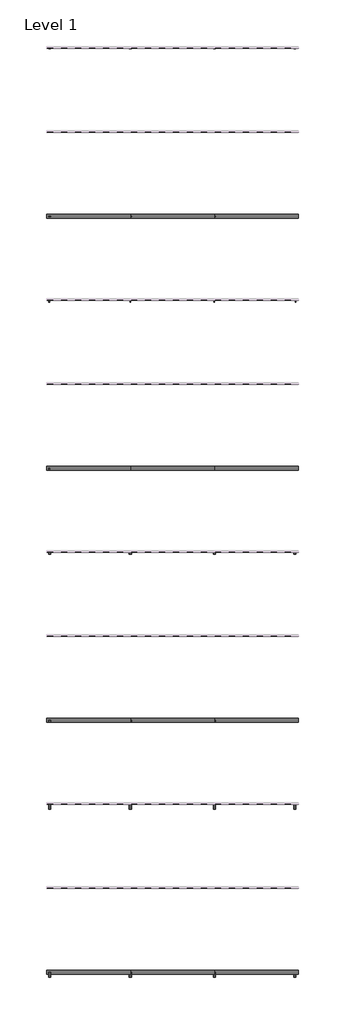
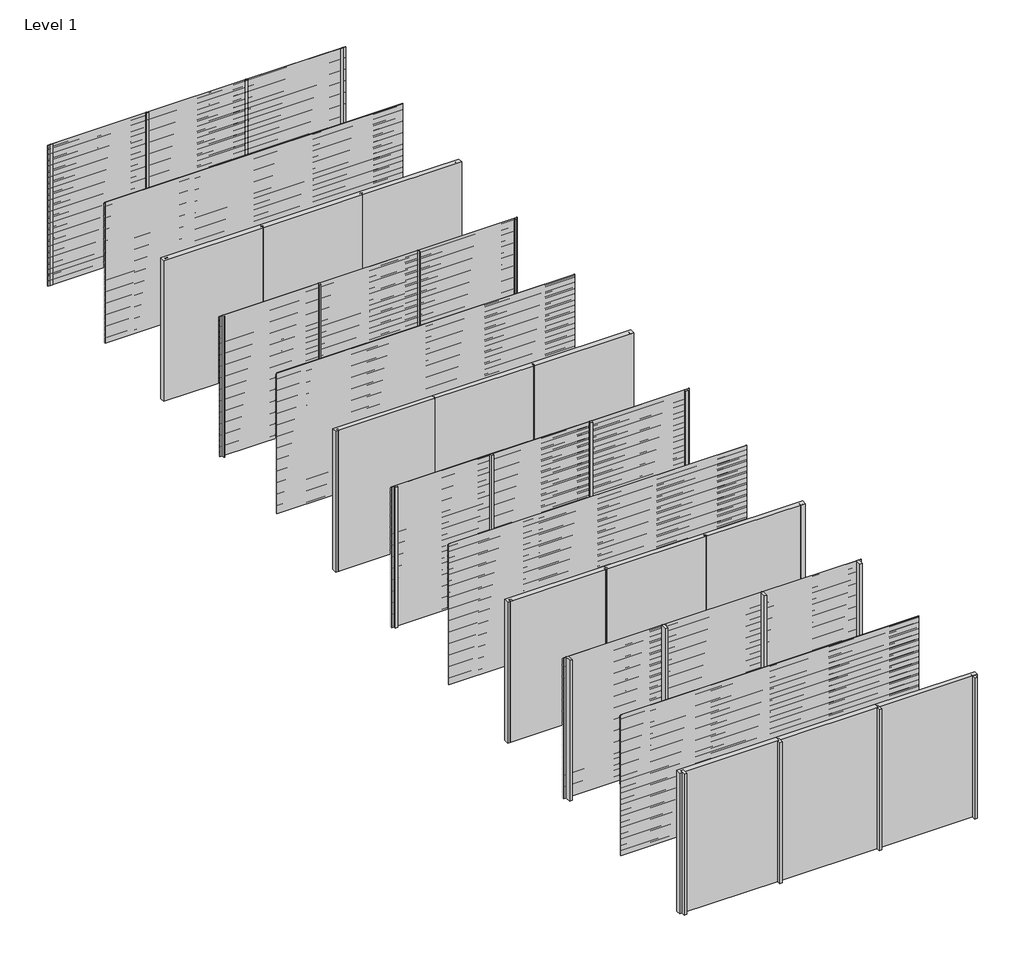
# One storey, part 1 of 17: 42 proxies, 32 members, 28 plates.
"""IFC4 building model written with IfcOpenShell, lengths in millimetres."""

from ifc_helpers import new_model, si_unit, frame, origin, origin_with_axes, place, context, project, spatial, polyline, outline, extrude, transform, mapped, element, save
from components import rectangular_mullion_bbbcbd30, rectangular_mullion_f8d4a220, rectangular_mullion_81aaf6fe, rectangular_mullion_6e08dc26, rectangular_mullion_75c52e10, rectangular_mullion_40295cf1, rectangular_mullion_7f158cb3, rectangular_mullion_66519e13, rectangular_mullion_5829b51c, rectangular_mullion_3b5b8a15, rectangular_mullion_81543344, rectangular_mullion_041a21c4, empty_system_panel_empty_24b1c33f, empty_system_panel_empty_63adb5f1

model = new_model("IFC4")

# Units and contexts
model_context = context("Model", 3, world=origin())
ifc_project = project(units=[si_unit("LENGTHUNIT", "METRE", prefix="MILLI")], contexts=[model_context])

# Site, building, storey
site = spatial("IfcSite", under=ifc_project)
building = spatial("IfcBuilding", under=site)
storey = spatial("IfcBuildingStorey", under=building, Name="Level 1", Elevation=0.0)

# Proxies
placement = place(None, origin())
element("IfcBuildingElementProxy", 1, Name="Wall Sweeps", at=placement, inside=storey, context=model_context, shape_type="SweptSolid", body=[
    extrude(outline(polyline([(-19961.0, 2951.5), (-19961.0, 2936.5), (-19979.0, 2948.6411533), (-19997.0, 2936.5), (-19997.0, 2951.5), (-19980.0, 2962.9666448), (-19980.0, 2975.0), (-19978.0, 2975.0), (-19978.0, 2962.9666448), (-19961.0, 2951.5)])), frame((0.0, 0.0, 0.0), z_axis=(1.0, 0.0, 0.0), x_axis=(0.0, 1.0, 0.0)), (0.0, 0.0, 1.0), 6000.0),
])
element("IfcBuildingElementProxy", 2, Name="Wall Sweeps", at=placement, inside=storey, context=model_context, shape_type="SweptSolid", body=[
    extrude(outline(polyline([(-19961.0, 2916.5), (-19961.0, 2901.5), (-19979.0, 2913.6411533), (-19997.0, 2901.5), (-19997.0, 2916.5), (-19980.0, 2927.9666448), (-19980.0, 2940.0), (-19978.0, 2940.0), (-19978.0, 2927.9666448), (-19961.0, 2916.5)])), frame((0.0, 0.0, 0.0), z_axis=(1.0, 0.0, 0.0), x_axis=(0.0, 1.0, 0.0)), (0.0, 0.0, 1.0), 6000.0),
])
element("IfcBuildingElementProxy", 3, Name="Wall Sweeps", at=placement, inside=storey, context=model_context, shape_type="SweptSolid", body=[
    extrude(outline(polyline([(-19961.0, 2881.5), (-19961.0, 2866.5), (-19979.0, 2878.6411533), (-19997.0, 2866.5), (-19997.0, 2881.5), (-19980.0, 2892.9666448), (-19980.0, 2905.0), (-19978.0, 2905.0), (-19978.0, 2892.9666448), (-19961.0, 2881.5)])), frame((0.0, 0.0, 0.0), z_axis=(1.0, 0.0, 0.0), x_axis=(0.0, 1.0, 0.0)), (0.0, 0.0, 1.0), 6000.0),
])
element("IfcBuildingElementProxy", 4, Name="Wall Sweeps", at=placement, inside=storey, context=model_context, shape_type="SweptSolid", body=[
    extrude(outline(polyline([(-19961.0, 2846.5), (-19961.0, 2831.5), (-19979.0, 2843.6411533), (-19997.0, 2831.5), (-19997.0, 2846.5), (-19980.0, 2857.9666448), (-19980.0, 2870.0), (-19978.0, 2870.0), (-19978.0, 2857.9666448), (-19961.0, 2846.5)])), frame((0.0, 0.0, 0.0), z_axis=(1.0, 0.0, 0.0), x_axis=(0.0, 1.0, 0.0)), (0.0, 0.0, 1.0), 6000.0),
])
element("IfcBuildingElementProxy", 5, Name="Wall Sweeps", at=placement, inside=storey, context=model_context, shape_type="SweptSolid", body=[
    extrude(outline(polyline([(-19961.0, 2811.5), (-19961.0, 2796.5), (-19979.0, 2808.6411533), (-19997.0, 2796.5), (-19997.0, 2811.5), (-19980.0, 2822.9666448), (-19980.0, 2835.0), (-19978.0, 2835.0), (-19978.0, 2822.9666448), (-19961.0, 2811.5)])), frame((0.0, 0.0, 0.0), z_axis=(1.0, 0.0, 0.0), x_axis=(0.0, 1.0, 0.0)), (0.0, 0.0, 1.0), 6000.0),
])
element("IfcBuildingElementProxy", 6, Name="Wall Sweeps", at=placement, inside=storey, context=model_context, shape_type="SweptSolid", body=[
    extrude(outline(polyline([(-19961.0, 2776.5), (-19961.0, 2761.5), (-19979.0, 2773.6411533), (-19997.0, 2761.5), (-19997.0, 2776.5), (-19980.0, 2787.9666448), (-19980.0, 2800.0), (-19978.0, 2800.0), (-19978.0, 2787.9666448), (-19961.0, 2776.5)])), frame((0.0, 0.0, 0.0), z_axis=(1.0, 0.0, 0.0), x_axis=(0.0, 1.0, 0.0)), (0.0, 0.0, 1.0), 6000.0),
])
element("IfcBuildingElementProxy", 7, Name="Wall Sweeps", at=placement, inside=storey, context=model_context, shape_type="SweptSolid", body=[
    extrude(outline(polyline([(-19961.0, 2741.5), (-19961.0, 2726.5), (-19979.0, 2738.6411533), (-19997.0, 2726.5), (-19997.0, 2741.5), (-19980.0, 2752.9666448), (-19980.0, 2765.0), (-19978.0, 2765.0), (-19978.0, 2752.9666448), (-19961.0, 2741.5)])), frame((0.0, 0.0, 0.0), z_axis=(1.0, 0.0, 0.0), x_axis=(0.0, 1.0, 0.0)), (0.0, 0.0, 1.0), 6000.0),
])
element("IfcBuildingElementProxy", 8, Name="Wall Sweeps", at=placement, inside=storey, context=model_context, shape_type="SweptSolid", body=[
    extrude(outline(polyline([(-19961.0, 2706.5), (-19961.0, 2691.5), (-19979.0, 2703.6411533), (-19997.0, 2691.5), (-19997.0, 2706.5), (-19980.0, 2717.9666448), (-19980.0, 2730.0), (-19978.0, 2730.0), (-19978.0, 2717.9666448), (-19961.0, 2706.5)])), frame((0.0, 0.0, 0.0), z_axis=(1.0, 0.0, 0.0), x_axis=(0.0, 1.0, 0.0)), (0.0, 0.0, 1.0), 6000.0),
])
element("IfcBuildingElementProxy", 9, Name="Wall Sweeps", at=placement, inside=storey, context=model_context, shape_type="SweptSolid", body=[
    extrude(outline(polyline([(-19961.0, 2671.5), (-19961.0, 2656.5), (-19979.0, 2668.6411533), (-19997.0, 2656.5), (-19997.0, 2671.5), (-19980.0, 2682.9666448), (-19980.0, 2695.0), (-19978.0, 2695.0), (-19978.0, 2682.9666448), (-19961.0, 2671.5)])), frame((0.0, 0.0, 0.0), z_axis=(1.0, 0.0, 0.0), x_axis=(0.0, 1.0, 0.0)), (0.0, 0.0, 1.0), 6000.0),
])
element("IfcBuildingElementProxy", 10, Name="Wall Sweeps", at=placement, inside=storey, context=model_context, shape_type="SweptSolid", body=[
    extrude(outline(polyline([(-19961.0, 2636.5), (-19961.0, 2621.5), (-19979.0, 2633.6411533), (-19997.0, 2621.5), (-19997.0, 2636.5), (-19980.0, 2647.9666448), (-19980.0, 2660.0), (-19978.0, 2660.0), (-19978.0, 2647.9666448), (-19961.0, 2636.5)])), frame((0.0, 0.0, 0.0), z_axis=(1.0, 0.0, 0.0), x_axis=(0.0, 1.0, 0.0)), (0.0, 0.0, 1.0), 6000.0),
])
element("IfcBuildingElementProxy", 11, Name="Wall Sweeps", at=placement, inside=storey, context=model_context, shape_type="SweptSolid", body=[
    extrude(outline(polyline([(-19961.0, 2601.5), (-19961.0, 2586.5), (-19979.0, 2598.6411533), (-19997.0, 2586.5), (-19997.0, 2601.5), (-19980.0, 2612.9666448), (-19980.0, 2625.0), (-19978.0, 2625.0), (-19978.0, 2612.9666448), (-19961.0, 2601.5)])), frame((0.0, 0.0, 0.0), z_axis=(1.0, 0.0, 0.0), x_axis=(0.0, 1.0, 0.0)), (0.0, 0.0, 1.0), 6000.0),
])
element("IfcBuildingElementProxy", 12, Name="Wall Sweeps", at=placement, inside=storey, context=model_context, shape_type="SweptSolid", body=[
    extrude(outline(polyline([(-19961.0, 2566.5), (-19961.0, 2551.5), (-19979.0, 2563.6411533), (-19997.0, 2551.5), (-19997.0, 2566.5), (-19980.0, 2577.9666448), (-19980.0, 2590.0), (-19978.0, 2590.0), (-19978.0, 2577.9666448), (-19961.0, 2566.5)])), frame((0.0, 0.0, 0.0), z_axis=(1.0, 0.0, 0.0), x_axis=(0.0, 1.0, 0.0)), (0.0, 0.0, 1.0), 6000.0),
])
element("IfcBuildingElementProxy", 13, Name="Wall Sweeps", at=placement, inside=storey, context=model_context, shape_type="SweptSolid", body=[
    extrude(outline(polyline([(-19961.0, 2531.5), (-19961.0, 2516.5), (-19979.0, 2528.6411533), (-19997.0, 2516.5), (-19997.0, 2531.5), (-19980.0, 2542.9666448), (-19980.0, 2555.0), (-19978.0, 2555.0), (-19978.0, 2542.9666448), (-19961.0, 2531.5)])), frame((0.0, 0.0, 0.0), z_axis=(1.0, 0.0, 0.0), x_axis=(0.0, 1.0, 0.0)), (0.0, 0.0, 1.0), 6000.0),
])
element("IfcBuildingElementProxy", 14, Name="Wall Sweeps", at=placement, inside=storey, context=model_context, shape_type="SweptSolid", body=[
    extrude(outline(polyline([(-19961.0, 2496.5), (-19961.0, 2481.5), (-19979.0, 2493.6411533), (-19997.0, 2481.5), (-19997.0, 2496.5), (-19980.0, 2507.9666448), (-19980.0, 2520.0), (-19978.0, 2520.0), (-19978.0, 2507.9666448), (-19961.0, 2496.5)])), frame((0.0, 0.0, 0.0), z_axis=(1.0, 0.0, 0.0), x_axis=(0.0, 1.0, 0.0)), (0.0, 0.0, 1.0), 6000.0),
])
element("IfcBuildingElementProxy", 15, Name="Wall Sweeps", at=placement, inside=storey, context=model_context, shape_type="SweptSolid", body=[
    extrude(outline(polyline([(-19961.0, 2461.5), (-19961.0, 2446.5), (-19979.0, 2458.6411533), (-19997.0, 2446.5), (-19997.0, 2461.5), (-19980.0, 2472.9666448), (-19980.0, 2485.0), (-19978.0, 2485.0), (-19978.0, 2472.9666448), (-19961.0, 2461.5)])), frame((0.0, 0.0, 0.0), z_axis=(1.0, 0.0, 0.0), x_axis=(0.0, 1.0, 0.0)), (0.0, 0.0, 1.0), 6000.0),
])
element("IfcBuildingElementProxy", 16, Name="Wall Sweeps", at=placement, inside=storey, context=model_context, shape_type="SweptSolid", body=[
    extrude(outline(polyline([(-19961.0, 2426.5), (-19961.0, 2411.5), (-19979.0, 2423.6411533), (-19997.0, 2411.5), (-19997.0, 2426.5), (-19980.0, 2437.9666448), (-19980.0, 2450.0), (-19978.0, 2450.0), (-19978.0, 2437.9666448), (-19961.0, 2426.5)])), frame((0.0, 0.0, 0.0), z_axis=(1.0, 0.0, 0.0), x_axis=(0.0, 1.0, 0.0)), (0.0, 0.0, 1.0), 6000.0),
])
element("IfcBuildingElementProxy", 17, Name="Wall Sweeps", at=placement, inside=storey, context=model_context, shape_type="SweptSolid", body=[
    extrude(outline(polyline([(-19961.0, 2391.5), (-19961.0, 2376.5), (-19979.0, 2388.6411533), (-19997.0, 2376.5), (-19997.0, 2391.5), (-19980.0, 2402.9666448), (-19980.0, 2415.0), (-19978.0, 2415.0), (-19978.0, 2402.9666448), (-19961.0, 2391.5)])), frame((0.0, 0.0, 0.0), z_axis=(1.0, 0.0, 0.0), x_axis=(0.0, 1.0, 0.0)), (0.0, 0.0, 1.0), 6000.0),
])
element("IfcBuildingElementProxy", 18, Name="Wall Sweeps", at=placement, inside=storey, context=model_context, shape_type="SweptSolid", body=[
    extrude(outline(polyline([(-19961.0, 2356.5), (-19961.0, 2341.5), (-19979.0, 2353.6411533), (-19997.0, 2341.5), (-19997.0, 2356.5), (-19980.0, 2367.9666448), (-19980.0, 2380.0), (-19978.0, 2380.0), (-19978.0, 2367.9666448), (-19961.0, 2356.5)])), frame((0.0, 0.0, 0.0), z_axis=(1.0, 0.0, 0.0), x_axis=(0.0, 1.0, 0.0)), (0.0, 0.0, 1.0), 6000.0),
])
element("IfcBuildingElementProxy", 19, Name="Wall Sweeps", at=placement, inside=storey, context=model_context, shape_type="SweptSolid", body=[
    extrude(outline(polyline([(-19961.0, 2321.5), (-19961.0, 2306.5), (-19979.0, 2318.6411533), (-19997.0, 2306.5), (-19997.0, 2321.5), (-19980.0, 2332.9666448), (-19980.0, 2345.0), (-19978.0, 2345.0), (-19978.0, 2332.9666448), (-19961.0, 2321.5)])), frame((0.0, 0.0, 0.0), z_axis=(1.0, 0.0, 0.0), x_axis=(0.0, 1.0, 0.0)), (0.0, 0.0, 1.0), 6000.0),
])
element("IfcBuildingElementProxy", 20, Name="Wall Sweeps", at=placement, inside=storey, context=model_context, shape_type="SweptSolid", body=[
    extrude(outline(polyline([(-19961.0, 2286.5), (-19961.0, 2271.5), (-19979.0, 2283.6411533), (-19997.0, 2271.5), (-19997.0, 2286.5), (-19980.0, 2297.9666448), (-19980.0, 2310.0), (-19978.0, 2310.0), (-19978.0, 2297.9666448), (-19961.0, 2286.5)])), frame((0.0, 0.0, 0.0), z_axis=(1.0, 0.0, 0.0), x_axis=(0.0, 1.0, 0.0)), (0.0, 0.0, 1.0), 6000.0),
])
element("IfcBuildingElementProxy", 21, Name="Wall Sweeps", at=placement, inside=storey, context=model_context, shape_type="SweptSolid", body=[
    extrude(outline(polyline([(-19961.0, 2251.5), (-19961.0, 2236.5), (-19979.0, 2248.6411533), (-19997.0, 2236.5), (-19997.0, 2251.5), (-19980.0, 2262.9666448), (-19980.0, 2275.0), (-19978.0, 2275.0), (-19978.0, 2262.9666448), (-19961.0, 2251.5)])), frame((0.0, 0.0, 0.0), z_axis=(1.0, 0.0, 0.0), x_axis=(0.0, 1.0, 0.0)), (0.0, 0.0, 1.0), 6000.0),
])
element("IfcBuildingElementProxy", 22, Name="Wall Sweeps", at=placement, inside=storey, context=model_context, shape_type="SweptSolid", body=[
    extrude(outline(polyline([(-19961.0, 2216.5), (-19961.0, 2201.5), (-19979.0, 2213.6411533), (-19997.0, 2201.5), (-19997.0, 2216.5), (-19980.0, 2227.9666448), (-19980.0, 2240.0), (-19978.0, 2240.0), (-19978.0, 2227.9666448), (-19961.0, 2216.5)])), frame((0.0, 0.0, 0.0), z_axis=(1.0, 0.0, 0.0), x_axis=(0.0, 1.0, 0.0)), (0.0, 0.0, 1.0), 6000.0),
])
element("IfcBuildingElementProxy", 23, Name="Wall Sweeps", at=placement, inside=storey, context=model_context, shape_type="SweptSolid", body=[
    extrude(outline(polyline([(-19961.0, 2181.5), (-19961.0, 2166.5), (-19979.0, 2178.6411533), (-19997.0, 2166.5), (-19997.0, 2181.5), (-19980.0, 2192.9666448), (-19980.0, 2205.0), (-19978.0, 2205.0), (-19978.0, 2192.9666448), (-19961.0, 2181.5)])), frame((0.0, 0.0, 0.0), z_axis=(1.0, 0.0, 0.0), x_axis=(0.0, 1.0, 0.0)), (0.0, 0.0, 1.0), 6000.0),
])
element("IfcBuildingElementProxy", 24, Name="Wall Sweeps", at=placement, inside=storey, context=model_context, shape_type="SweptSolid", body=[
    extrude(outline(polyline([(-19961.0, 2146.5), (-19961.0, 2131.5), (-19979.0, 2143.6411533), (-19997.0, 2131.5), (-19997.0, 2146.5), (-19980.0, 2157.9666448), (-19980.0, 2170.0), (-19978.0, 2170.0), (-19978.0, 2157.9666448), (-19961.0, 2146.5)])), frame((0.0, 0.0, 0.0), z_axis=(1.0, 0.0, 0.0), x_axis=(0.0, 1.0, 0.0)), (0.0, 0.0, 1.0), 6000.0),
])
element("IfcBuildingElementProxy", 25, Name="Wall Sweeps", at=placement, inside=storey, context=model_context, shape_type="SweptSolid", body=[
    extrude(outline(polyline([(-19961.0, 2111.5), (-19961.0, 2096.5), (-19979.0, 2108.6411533), (-19997.0, 2096.5), (-19997.0, 2111.5), (-19980.0, 2122.9666448), (-19980.0, 2135.0), (-19978.0, 2135.0), (-19978.0, 2122.9666448), (-19961.0, 2111.5)])), frame((0.0, 0.0, 0.0), z_axis=(1.0, 0.0, 0.0), x_axis=(0.0, 1.0, 0.0)), (0.0, 0.0, 1.0), 6000.0),
])
element("IfcBuildingElementProxy", 26, Name="Wall Sweeps", at=placement, inside=storey, context=model_context, shape_type="SweptSolid", body=[
    extrude(outline(polyline([(-19961.0, 2076.5), (-19961.0, 2061.5), (-19979.0, 2073.6411533), (-19997.0, 2061.5), (-19997.0, 2076.5), (-19980.0, 2087.9666448), (-19980.0, 2100.0), (-19978.0, 2100.0), (-19978.0, 2087.9666448), (-19961.0, 2076.5)])), frame((0.0, 0.0, 0.0), z_axis=(1.0, 0.0, 0.0), x_axis=(0.0, 1.0, 0.0)), (0.0, 0.0, 1.0), 6000.0),
])
element("IfcBuildingElementProxy", 27, Name="Wall Sweeps", at=placement, inside=storey, context=model_context, shape_type="SweptSolid", body=[
    extrude(outline(polyline([(-19961.0, 2041.5), (-19961.0, 2026.5), (-19979.0, 2038.6411533), (-19997.0, 2026.5), (-19997.0, 2041.5), (-19980.0, 2052.9666448), (-19980.0, 2065.0), (-19978.0, 2065.0), (-19978.0, 2052.9666448), (-19961.0, 2041.5)])), frame((0.0, 0.0, 0.0), z_axis=(1.0, 0.0, 0.0), x_axis=(0.0, 1.0, 0.0)), (0.0, 0.0, 1.0), 6000.0),
])
element("IfcBuildingElementProxy", 28, Name="Wall Sweeps", at=placement, inside=storey, context=model_context, shape_type="SweptSolid", body=[
    extrude(outline(polyline([(-19961.0, 2006.5), (-19961.0, 1991.5), (-19979.0, 2003.6411533), (-19997.0, 1991.5), (-19997.0, 2006.5), (-19980.0, 2017.9666448), (-19980.0, 2030.0), (-19978.0, 2030.0), (-19978.0, 2017.9666448), (-19961.0, 2006.5)])), frame((0.0, 0.0, 0.0), z_axis=(1.0, 0.0, 0.0), x_axis=(0.0, 1.0, 0.0)), (0.0, 0.0, 1.0), 6000.0),
])
element("IfcBuildingElementProxy", 29, Name="Wall Sweeps", at=placement, inside=storey, context=model_context, shape_type="SweptSolid", body=[
    extrude(outline(polyline([(-19961.0, 1971.5), (-19961.0, 1956.5), (-19979.0, 1968.6411533), (-19997.0, 1956.5), (-19997.0, 1971.5), (-19980.0, 1982.9666448), (-19980.0, 1995.0), (-19978.0, 1995.0), (-19978.0, 1982.9666448), (-19961.0, 1971.5)])), frame((0.0, 0.0, 0.0), z_axis=(1.0, 0.0, 0.0), x_axis=(0.0, 1.0, 0.0)), (0.0, 0.0, 1.0), 6000.0),
])
element("IfcBuildingElementProxy", 30, Name="Wall Sweeps", at=placement, inside=storey, context=model_context, shape_type="SweptSolid", body=[
    extrude(outline(polyline([(-19961.0, 1936.5), (-19961.0, 1921.5), (-19979.0, 1933.6411533), (-19997.0, 1921.5), (-19997.0, 1936.5), (-19980.0, 1947.9666448), (-19980.0, 1960.0), (-19978.0, 1960.0), (-19978.0, 1947.9666448), (-19961.0, 1936.5)])), frame((0.0, 0.0, 0.0), z_axis=(1.0, 0.0, 0.0), x_axis=(0.0, 1.0, 0.0)), (0.0, 0.0, 1.0), 6000.0),
])
element("IfcBuildingElementProxy", 31, Name="Wall Sweeps", at=placement, inside=storey, context=model_context, shape_type="SweptSolid", body=[
    extrude(outline(polyline([(-19961.0, 1901.5), (-19961.0, 1886.5), (-19979.0, 1898.6411533), (-19997.0, 1886.5), (-19997.0, 1901.5), (-19980.0, 1912.9666448), (-19980.0, 1925.0), (-19978.0, 1925.0), (-19978.0, 1912.9666448), (-19961.0, 1901.5)])), frame((0.0, 0.0, 0.0), z_axis=(1.0, 0.0, 0.0), x_axis=(0.0, 1.0, 0.0)), (0.0, 0.0, 1.0), 6000.0),
])
element("IfcBuildingElementProxy", 32, Name="Wall Sweeps", at=placement, inside=storey, context=model_context, shape_type="SweptSolid", body=[
    extrude(outline(polyline([(-19961.0, 1866.5), (-19961.0, 1851.5), (-19979.0, 1863.6411533), (-19997.0, 1851.5), (-19997.0, 1866.5), (-19980.0, 1877.9666448), (-19980.0, 1890.0), (-19978.0, 1890.0), (-19978.0, 1877.9666448), (-19961.0, 1866.5)])), frame((0.0, 0.0, 0.0), z_axis=(1.0, 0.0, 0.0), x_axis=(0.0, 1.0, 0.0)), (0.0, 0.0, 1.0), 6000.0),
])
element("IfcBuildingElementProxy", 33, Name="Wall Sweeps", at=placement, inside=storey, context=model_context, shape_type="SweptSolid", body=[
    extrude(outline(polyline([(-19961.0, 1831.5), (-19961.0, 1816.5), (-19979.0, 1828.6411533), (-19997.0, 1816.5), (-19997.0, 1831.5), (-19980.0, 1842.9666448), (-19980.0, 1855.0), (-19978.0, 1855.0), (-19978.0, 1842.9666448), (-19961.0, 1831.5)])), frame((0.0, 0.0, 0.0), z_axis=(1.0, 0.0, 0.0), x_axis=(0.0, 1.0, 0.0)), (0.0, 0.0, 1.0), 6000.0),
])
element("IfcBuildingElementProxy", 34, Name="Wall Sweeps", at=placement, inside=storey, context=model_context, shape_type="SweptSolid", body=[
    extrude(outline(polyline([(-19961.0, 1796.5), (-19961.0, 1781.5), (-19979.0, 1793.6411533), (-19997.0, 1781.5), (-19997.0, 1796.5), (-19980.0, 1807.9666448), (-19980.0, 1820.0), (-19978.0, 1820.0), (-19978.0, 1807.9666448), (-19961.0, 1796.5)])), frame((0.0, 0.0, 0.0), z_axis=(1.0, 0.0, 0.0), x_axis=(0.0, 1.0, 0.0)), (0.0, 0.0, 1.0), 6000.0),
])
element("IfcBuildingElementProxy", 35, Name="Wall Sweeps", at=placement, inside=storey, context=model_context, shape_type="SweptSolid", body=[
    extrude(outline(polyline([(-19961.0, 1761.5), (-19961.0, 1746.5), (-19979.0, 1758.6411533), (-19997.0, 1746.5), (-19997.0, 1761.5), (-19980.0, 1772.9666448), (-19980.0, 1785.0), (-19978.0, 1785.0), (-19978.0, 1772.9666448), (-19961.0, 1761.5)])), frame((0.0, 0.0, 0.0), z_axis=(1.0, 0.0, 0.0), x_axis=(0.0, 1.0, 0.0)), (0.0, 0.0, 1.0), 6000.0),
])
element("IfcBuildingElementProxy", 36, Name="Wall Sweeps", at=placement, inside=storey, context=model_context, shape_type="SweptSolid", body=[
    extrude(outline(polyline([(-19961.0, 1726.5), (-19961.0, 1711.5), (-19979.0, 1723.6411533), (-19997.0, 1711.5), (-19997.0, 1726.5), (-19980.0, 1737.9666448), (-19980.0, 1750.0), (-19978.0, 1750.0), (-19978.0, 1737.9666448), (-19961.0, 1726.5)])), frame((0.0, 0.0, 0.0), z_axis=(1.0, 0.0, 0.0), x_axis=(0.0, 1.0, 0.0)), (0.0, 0.0, 1.0), 6000.0),
])
element("IfcBuildingElementProxy", 37, Name="Wall Sweeps", at=placement, inside=storey, context=model_context, shape_type="SweptSolid", body=[
    extrude(outline(polyline([(-19961.0, 1691.5), (-19961.0, 1676.5), (-19979.0, 1688.6411533), (-19997.0, 1676.5), (-19997.0, 1691.5), (-19980.0, 1702.9666448), (-19980.0, 1715.0), (-19978.0, 1715.0), (-19978.0, 1702.9666448), (-19961.0, 1691.5)])), frame((0.0, 0.0, 0.0), z_axis=(1.0, 0.0, 0.0), x_axis=(0.0, 1.0, 0.0)), (0.0, 0.0, 1.0), 6000.0),
])
element("IfcBuildingElementProxy", 38, Name="Wall Sweeps", at=placement, inside=storey, context=model_context, shape_type="SweptSolid", body=[
    extrude(outline(polyline([(-19961.0, 1656.5), (-19961.0, 1641.5), (-19979.0, 1653.6411533), (-19997.0, 1641.5), (-19997.0, 1656.5), (-19980.0, 1667.9666448), (-19980.0, 1680.0), (-19978.0, 1680.0), (-19978.0, 1667.9666448), (-19961.0, 1656.5)])), frame((0.0, 0.0, 0.0), z_axis=(1.0, 0.0, 0.0), x_axis=(0.0, 1.0, 0.0)), (0.0, 0.0, 1.0), 6000.0),
])
element("IfcBuildingElementProxy", 39, Name="Wall Sweeps", at=placement, inside=storey, context=model_context, shape_type="SweptSolid", body=[
    extrude(outline(polyline([(-19961.0, 1621.5), (-19961.0, 1606.5), (-19979.0, 1618.6411533), (-19997.0, 1606.5), (-19997.0, 1621.5), (-19980.0, 1632.9666448), (-19980.0, 1645.0), (-19978.0, 1645.0), (-19978.0, 1632.9666448), (-19961.0, 1621.5)])), frame((0.0, 0.0, 0.0), z_axis=(1.0, 0.0, 0.0), x_axis=(0.0, 1.0, 0.0)), (0.0, 0.0, 1.0), 6000.0),
])
element("IfcBuildingElementProxy", 40, Name="Wall Sweeps", at=placement, inside=storey, context=model_context, shape_type="SweptSolid", body=[
    extrude(outline(polyline([(-19961.0, 1586.5), (-19961.0, 1571.5), (-19979.0, 1583.6411533), (-19997.0, 1571.5), (-19997.0, 1586.5), (-19980.0, 1597.9666448), (-19980.0, 1610.0), (-19978.0, 1610.0), (-19978.0, 1597.9666448), (-19961.0, 1586.5)])), frame((0.0, 0.0, 0.0), z_axis=(1.0, 0.0, 0.0), x_axis=(0.0, 1.0, 0.0)), (0.0, 0.0, 1.0), 6000.0),
])
element("IfcBuildingElementProxy", 41, Name="Wall Sweeps", at=placement, inside=storey, context=model_context, shape_type="SweptSolid", body=[
    extrude(outline(polyline([(-19961.0, 1551.5), (-19961.0, 1536.5), (-19979.0, 1548.6411533), (-19997.0, 1536.5), (-19997.0, 1551.5), (-19980.0, 1562.9666448), (-19980.0, 1575.0), (-19978.0, 1575.0), (-19978.0, 1562.9666448), (-19961.0, 1551.5)])), frame((0.0, 0.0, 0.0), z_axis=(1.0, 0.0, 0.0), x_axis=(0.0, 1.0, 0.0)), (0.0, 0.0, 1.0), 6000.0),
])
element("IfcBuildingElementProxy", 42, Name="Wall Sweeps", at=placement, inside=storey, context=model_context, shape_type="SweptSolid", body=[
    extrude(outline(polyline([(-19961.0, 1516.5), (-19961.0, 1501.5), (-19979.0, 1513.6411533), (-19997.0, 1501.5), (-19997.0, 1516.5), (-19980.0, 1527.9666448), (-19980.0, 1540.0), (-19978.0, 1540.0), (-19978.0, 1527.9666448), (-19961.0, 1516.5)])), frame((0.0, 0.0, 0.0), z_axis=(1.0, 0.0, 0.0), x_axis=(0.0, 1.0, 0.0)), (0.0, 0.0, 1.0), 6000.0),
])

# Members
rectangular_mullion_shape = rectangular_mullion_bbbcbd30(model_context)
element("IfcMember", 43, ObjectType="Rectangular Mullion : RSen_21_CWM_support profile - 50x12 - left_gen_duco projects", at=placement, inside=storey, context=model_context, shape_type="MappedRepresentation", body=[
    mapped(rectangular_mullion_shape, transform((0.0, 0.0, 0.0), x_axis=(-1.0, 0.0, 0.0), y_axis=(0.0, 1.0, 0.0), z_axis=(0.0, 0.0, -1.0))),
])
element("IfcMember", 44, ObjectType="Rectangular Mullion : RSen_21_CWM_support profile - 50x12 - left_gen_duco projects", at=placement, inside=storey, context=model_context, shape_type="MappedRepresentation", body=[
    mapped(rectangular_mullion_shape, transform((0.0, -4000.0, 0.0), x_axis=(-1.0, 0.0, 0.0), y_axis=(0.0, 1.0, 0.0), z_axis=(0.0, 0.0, -1.0))),
])
rectangular_mullion_2_shape = rectangular_mullion_f8d4a220(model_context)
element("IfcMember", 45, ObjectType="Rectangular Mullion : RSen_21_CWM_support profile - 50x12 - right_gen_duco projects", at=placement, inside=storey, context=model_context, shape_type="MappedRepresentation", body=[
    mapped(rectangular_mullion_2_shape, transform((6000.0, 0.0, 3000.0), x_axis=(1.0, 0.0, 0.0), y_axis=(0.0, 1.0, 0.0), z_axis=(0.0, 0.0, 1.0))),
])
element("IfcMember", 46, ObjectType="Rectangular Mullion : RSen_21_CWM_support profile - 50x12 - right_gen_duco projects", at=placement, inside=storey, context=model_context, shape_type="MappedRepresentation", body=[
    mapped(rectangular_mullion_2_shape, transform((6000.0, -4000.0, 3000.0), x_axis=(1.0, 0.0, 0.0), y_axis=(0.0, 1.0, 0.0), z_axis=(0.0, 0.0, 1.0))),
])
rectangular_mullion_3_shape = rectangular_mullion_81aaf6fe(model_context)
element("IfcMember", 47, ObjectType="Rectangular Mullion : RSen_21_CWM_support profile - 21x50 Multi - left_gen_duco projects", at=placement, inside=storey, context=model_context, shape_type="MappedRepresentation", body=[
    mapped(rectangular_mullion_3_shape, transform((0.0, -6000.0, 0.0), x_axis=(-1.0, 0.0, 0.0), y_axis=(0.0, 1.0, 0.0), z_axis=(0.0, 0.0, -1.0))),
])
element("IfcMember", 48, ObjectType="Rectangular Mullion : RSen_21_CWM_support profile - 21x50 Multi - left_gen_duco projects", at=placement, inside=storey, context=model_context, shape_type="MappedRepresentation", body=[
    mapped(rectangular_mullion_3_shape, transform((0.0, -10000.0, 0.0), x_axis=(-1.0, 0.0, 0.0), y_axis=(0.0, 1.0, 0.0), z_axis=(0.0, 0.0, -1.0))),
])
rectangular_mullion_4_shape = rectangular_mullion_6e08dc26(model_context)
element("IfcMember", 49, ObjectType="Rectangular Mullion : RSen_21_CWM_support profile - 21x50 Multi - right_gen_duco projects", at=placement, inside=storey, context=model_context, shape_type="MappedRepresentation", body=[
    mapped(rectangular_mullion_4_shape, transform((6000.0, -6000.0, 3000.0), x_axis=(1.0, 0.0, 0.0), y_axis=(0.0, 1.0, 0.0), z_axis=(0.0, 0.0, 1.0))),
])
element("IfcMember", 50, ObjectType="Rectangular Mullion : RSen_21_CWM_support profile - 21x50 Multi - right_gen_duco projects", at=placement, inside=storey, context=model_context, shape_type="MappedRepresentation", body=[
    mapped(rectangular_mullion_4_shape, transform((6000.0, -10000.0, 3000.0), x_axis=(1.0, 0.0, 0.0), y_axis=(0.0, 1.0, 0.0), z_axis=(0.0, 0.0, 1.0))),
])
rectangular_mullion_5_shape = rectangular_mullion_75c52e10(model_context)
element("IfcMember", 51, ObjectType="Rectangular Mullion : RSen_21_CWM_support profile - 50x50 - left_gen_duco projects", at=placement, inside=storey, context=model_context, shape_type="MappedRepresentation", body=[
    mapped(rectangular_mullion_5_shape, transform((0.0, -12000.0, 0.0), x_axis=(-1.0, 0.0, 0.0), y_axis=(0.0, 1.0, 0.0), z_axis=(0.0, 0.0, -1.0))),
])
element("IfcMember", 52, ObjectType="Rectangular Mullion : RSen_21_CWM_support profile - 50x50 - left_gen_duco projects", at=placement, inside=storey, context=model_context, shape_type="MappedRepresentation", body=[
    mapped(rectangular_mullion_5_shape, transform((0.0, -16000.0, 0.0), x_axis=(-1.0, 0.0, 0.0), y_axis=(0.0, 1.0, 0.0), z_axis=(0.0, 0.0, -1.0))),
])
rectangular_mullion_6_shape = rectangular_mullion_40295cf1(model_context)
element("IfcMember", 53, ObjectType="Rectangular Mullion : RSen_21_CWM_support profile - 50x50 - right_gen_duco projects", at=placement, inside=storey, context=model_context, shape_type="MappedRepresentation", body=[
    mapped(rectangular_mullion_6_shape, transform((6000.0, -12000.0, 3000.0), x_axis=(1.0, 0.0, 0.0), y_axis=(0.0, 1.0, 0.0), z_axis=(0.0, 0.0, 1.0))),
])
element("IfcMember", 54, ObjectType="Rectangular Mullion : RSen_21_CWM_support profile - 50x50 - right_gen_duco projects", at=placement, inside=storey, context=model_context, shape_type="MappedRepresentation", body=[
    mapped(rectangular_mullion_6_shape, transform((6000.0, -16000.0, 3000.0), x_axis=(1.0, 0.0, 0.0), y_axis=(0.0, 1.0, 0.0), z_axis=(0.0, 0.0, 1.0))),
])
rectangular_mullion_7_shape = rectangular_mullion_7f158cb3(model_context)
element("IfcMember", 55, ObjectType="Rectangular Mullion : RSen_21_CWM_support profile - 50x12_gen_duco projects", at=placement, inside=storey, context=model_context, shape_type="MappedRepresentation", body=[
    mapped(rectangular_mullion_7_shape, transform((4000.0, 0.0, 0.0), x_axis=(-1.0, 0.0, 0.0), y_axis=(0.0, 1.0, 0.0), z_axis=(0.0, 0.0, -1.0))),
])
element("IfcMember", 56, ObjectType="Rectangular Mullion : RSen_21_CWM_support profile - 50x12_gen_duco projects", at=placement, inside=storey, context=model_context, shape_type="MappedRepresentation", body=[
    mapped(rectangular_mullion_7_shape, transform((2000.0, 0.0, 0.0), x_axis=(-1.0, 0.0, 0.0), y_axis=(0.0, 1.0, 0.0), z_axis=(0.0, 0.0, -1.0))),
])
element("IfcMember", 57, ObjectType="Rectangular Mullion : RSen_21_CWM_support profile - 50x12_gen_duco projects", at=placement, inside=storey, context=model_context, shape_type="MappedRepresentation", body=[
    mapped(rectangular_mullion_7_shape, transform((4000.0, -4000.0, 0.0), x_axis=(-1.0, 0.0, 0.0), y_axis=(0.0, 1.0, 0.0), z_axis=(0.0, 0.0, -1.0))),
])
element("IfcMember", 58, ObjectType="Rectangular Mullion : RSen_21_CWM_support profile - 50x12_gen_duco projects", at=placement, inside=storey, context=model_context, shape_type="MappedRepresentation", body=[
    mapped(rectangular_mullion_7_shape, transform((2000.0, -4000.0, 0.0), x_axis=(-1.0, 0.0, 0.0), y_axis=(0.0, 1.0, 0.0), z_axis=(0.0, 0.0, -1.0))),
])
rectangular_mullion_8_shape = rectangular_mullion_66519e13(model_context)
element("IfcMember", 59, ObjectType="Rectangular Mullion : RSen_21_CWM_support profile - 21x50 Multi_gen_duco projects", at=placement, inside=storey, context=model_context, shape_type="MappedRepresentation", body=[
    mapped(rectangular_mullion_8_shape, transform((4000.0, -6000.0, 0.0), x_axis=(-1.0, 0.0, 0.0), y_axis=(0.0, 1.0, 0.0), z_axis=(0.0, 0.0, -1.0))),
])
element("IfcMember", 60, ObjectType="Rectangular Mullion : RSen_21_CWM_support profile - 21x50 Multi_gen_duco projects", at=placement, inside=storey, context=model_context, shape_type="MappedRepresentation", body=[
    mapped(rectangular_mullion_8_shape, transform((2000.0, -6000.0, 0.0), x_axis=(-1.0, 0.0, 0.0), y_axis=(0.0, 1.0, 0.0), z_axis=(0.0, 0.0, -1.0))),
])
element("IfcMember", 61, ObjectType="Rectangular Mullion : RSen_21_CWM_support profile - 21x50 Multi_gen_duco projects", at=placement, inside=storey, context=model_context, shape_type="MappedRepresentation", body=[
    mapped(rectangular_mullion_8_shape, transform((4000.0, -10000.0, 0.0), x_axis=(-1.0, 0.0, 0.0), y_axis=(0.0, 1.0, 0.0), z_axis=(0.0, 0.0, -1.0))),
])
element("IfcMember", 62, ObjectType="Rectangular Mullion : RSen_21_CWM_support profile - 21x50 Multi_gen_duco projects", at=placement, inside=storey, context=model_context, shape_type="MappedRepresentation", body=[
    mapped(rectangular_mullion_8_shape, transform((2000.0, -10000.0, 0.0), x_axis=(-1.0, 0.0, 0.0), y_axis=(0.0, 1.0, 0.0), z_axis=(0.0, 0.0, -1.0))),
])
rectangular_mullion_9_shape = rectangular_mullion_5829b51c(model_context)
element("IfcMember", 63, ObjectType="Rectangular Mullion : RSen_21_CWM_support profile - 50x50_gen_duco projects", at=placement, inside=storey, context=model_context, shape_type="MappedRepresentation", body=[
    mapped(rectangular_mullion_9_shape, transform((4000.0, -12000.0, 0.0), x_axis=(-1.0, 0.0, 0.0), y_axis=(0.0, 1.0, 0.0), z_axis=(0.0, 0.0, -1.0))),
])
element("IfcMember", 64, ObjectType="Rectangular Mullion : RSen_21_CWM_support profile - 50x50_gen_duco projects", at=placement, inside=storey, context=model_context, shape_type="MappedRepresentation", body=[
    mapped(rectangular_mullion_9_shape, transform((2000.0, -12000.0, 0.0), x_axis=(-1.0, 0.0, 0.0), y_axis=(0.0, 1.0, 0.0), z_axis=(0.0, 0.0, -1.0))),
])
element("IfcMember", 65, ObjectType="Rectangular Mullion : RSen_21_CWM_support profile - 50x50_gen_duco projects", at=placement, inside=storey, context=model_context, shape_type="MappedRepresentation", body=[
    mapped(rectangular_mullion_9_shape, transform((4000.0, -16000.0, 0.0), x_axis=(-1.0, 0.0, 0.0), y_axis=(0.0, 1.0, 0.0), z_axis=(0.0, 0.0, -1.0))),
])
element("IfcMember", 66, ObjectType="Rectangular Mullion : RSen_21_CWM_support profile - 50x50_gen_duco projects", at=placement, inside=storey, context=model_context, shape_type="MappedRepresentation", body=[
    mapped(rectangular_mullion_9_shape, transform((2000.0, -16000.0, 0.0), x_axis=(-1.0, 0.0, 0.0), y_axis=(0.0, 1.0, 0.0), z_axis=(0.0, 0.0, -1.0))),
])
rectangular_mullion_10_shape = rectangular_mullion_3b5b8a15(model_context)
element("IfcMember", 67, ObjectType="Rectangular Mullion : RSen_21_CWM_support profile - 50x125_gen_duco projects", at=placement, inside=storey, context=model_context, shape_type="MappedRepresentation", body=[
    mapped(rectangular_mullion_10_shape, transform((2000.0000001, -18000.0, 0.0), x_axis=(1.0, 0.0, 0.0), y_axis=(0.0, -1.0, 0.0), z_axis=(0.0, 0.0, -1.0))),
])
element("IfcMember", 68, ObjectType="Rectangular Mullion : RSen_21_CWM_support profile - 50x125_gen_duco projects", at=placement, inside=storey, context=model_context, shape_type="MappedRepresentation", body=[
    mapped(rectangular_mullion_10_shape, transform((3999.9999999, -18000.0, 0.0), x_axis=(1.0, 0.0, 0.0), y_axis=(0.0, -1.0, 0.0), z_axis=(0.0, 0.0, -1.0))),
])
element("IfcMember", 69, ObjectType="Rectangular Mullion : RSen_21_CWM_support profile - 50x125_gen_duco projects", at=placement, inside=storey, context=model_context, shape_type="MappedRepresentation", body=[
    mapped(rectangular_mullion_10_shape, transform((2000.0000001, -22000.0, 0.0), x_axis=(1.0, 0.0, 0.0), y_axis=(0.0, -1.0, 0.0), z_axis=(0.0, 0.0, -1.0))),
])
element("IfcMember", 70, ObjectType="Rectangular Mullion : RSen_21_CWM_support profile - 50x125_gen_duco projects", at=placement, inside=storey, context=model_context, shape_type="MappedRepresentation", body=[
    mapped(rectangular_mullion_10_shape, transform((3999.9999999, -22000.0, 0.0), x_axis=(1.0, 0.0, 0.0), y_axis=(0.0, -1.0, 0.0), z_axis=(0.0, 0.0, -1.0))),
])
rectangular_mullion_11_shape = rectangular_mullion_81543344(model_context)
element("IfcMember", 71, ObjectType="Rectangular Mullion : RSen_21_CWM_support profile - 50x125 - left_gen_duco projects", at=placement, inside=storey, context=model_context, shape_type="MappedRepresentation", body=[
    mapped(rectangular_mullion_11_shape, transform((6000.0, -18000.0, 0.0), x_axis=(1.0, 0.0, 0.0), y_axis=(0.0, -1.0, 0.0), z_axis=(0.0, 0.0, -1.0))),
])
element("IfcMember", 72, ObjectType="Rectangular Mullion : RSen_21_CWM_support profile - 50x125 - left_gen_duco projects", at=placement, inside=storey, context=model_context, shape_type="MappedRepresentation", body=[
    mapped(rectangular_mullion_11_shape, transform((6000.0, -22000.0, 0.0), x_axis=(1.0, 0.0, 0.0), y_axis=(0.0, -1.0, 0.0), z_axis=(0.0, 0.0, -1.0))),
])
rectangular_mullion_12_shape = rectangular_mullion_041a21c4(model_context)
element("IfcMember", 73, ObjectType="Rectangular Mullion : RSen_21_CWM_support profile - 50x125 - right_gen_duco projects", at=placement, inside=storey, context=model_context, shape_type="MappedRepresentation", body=[
    mapped(rectangular_mullion_12_shape, transform((0.0, -18000.0, 3000.0), x_axis=(-1.0, 0.0, 0.0), y_axis=(0.0, -1.0, 0.0), z_axis=(0.0, 0.0, 1.0))),
])
element("IfcMember", 74, ObjectType="Rectangular Mullion : RSen_21_CWM_support profile - 50x125 - right_gen_duco projects", at=placement, inside=storey, context=model_context, shape_type="MappedRepresentation", body=[
    mapped(rectangular_mullion_12_shape, transform((0.0, -22000.0, 3000.0), x_axis=(-1.0, 0.0, 0.0), y_axis=(0.0, -1.0, 0.0), z_axis=(0.0, 0.0, 1.0))),
])

# Plates
element("IfcPlate", 75, ObjectType="RSen_21_WA_louvre blade classic W 35V_gen_duco projects", at=placement, inside=storey, context=model_context, shape_type="SweptSolid", body=[
    extrude(outline(polyline([(0.0, 1.0), (2000.0, 1.0), (2000.0, -1.0), (0.0, -1.0), (0.0, 1.0)])), origin_with_axes(), (0.0, 0.0, 1.0), 3000.0),
])
element("IfcPlate", 76, ObjectType="RSen_21_WA_louvre blade classic W 35V_gen_duco projects", at=placement, inside=storey, context=model_context, shape_type="SweptSolid", body=[
    extrude(outline(polyline([(2000.0, 1.0), (4000.0, 1.0), (4000.0, -1.0), (2000.0, -1.0), (2000.0, 1.0)])), origin_with_axes(), (0.0, 0.0, 1.0), 3000.0),
])
element("IfcPlate", 77, ObjectType="RSen_21_WA_louvre blade classic W 35V_gen_duco projects", at=placement, inside=storey, context=model_context, shape_type="SweptSolid", body=[
    extrude(outline(polyline([(4000.0, 1.0), (6000.0, 1.0), (6000.0, -1.0), (4000.0, -1.0), (4000.0, 1.0)])), origin_with_axes(), (0.0, 0.0, 1.0), 3000.0),
])
element("IfcPlate", 78, ObjectType="RSen_21_WA_louvre blade classic W 35V_gen_duco projects", at=placement, inside=storey, context=model_context, shape_type="SweptSolid", body=[
    extrude(outline(polyline([(0.0, -1999.0), (6000.0, -1999.0), (6000.0, -2001.0), (0.0, -2001.0), (0.0, -1999.0)])), origin_with_axes(), (0.0, 0.0, 1.0), 3000.0),
])
element("IfcPlate", 79, ObjectType="RSen_21_WA_louvre blade classic W 35V_gen_duco projects", at=placement, inside=storey, context=model_context, shape_type="SweptSolid", body=[
    extrude(outline(polyline([(0.0, -5999.0), (2000.0, -5999.0), (2000.0, -6001.0), (0.0, -6001.0), (0.0, -5999.0)])), origin_with_axes(), (0.0, 0.0, 1.0), 3000.0),
])
element("IfcPlate", 80, ObjectType="RSen_21_WA_louvre blade classic W 35V_gen_duco projects", at=placement, inside=storey, context=model_context, shape_type="SweptSolid", body=[
    extrude(outline(polyline([(2000.0, -5999.0), (4000.0, -5999.0), (4000.0, -6001.0), (2000.0, -6001.0), (2000.0, -5999.0)])), origin_with_axes(), (0.0, 0.0, 1.0), 3000.0),
])
element("IfcPlate", 81, ObjectType="RSen_21_WA_louvre blade classic W 35V_gen_duco projects", at=placement, inside=storey, context=model_context, shape_type="SweptSolid", body=[
    extrude(outline(polyline([(4000.0, -5999.0), (6000.0, -5999.0), (6000.0, -6001.0), (4000.0, -6001.0), (4000.0, -5999.0)])), origin_with_axes(), (0.0, 0.0, 1.0), 3000.0),
])
element("IfcPlate", 82, ObjectType="RSen_21_WA_louvre blade classic W 35V_gen_duco projects", at=placement, inside=storey, context=model_context, shape_type="SweptSolid", body=[
    extrude(outline(polyline([(0.0, -7999.0), (6000.0, -7999.0), (6000.0, -8001.0), (0.0, -8001.0), (0.0, -7999.0)])), origin_with_axes(), (0.0, 0.0, 1.0), 3000.0),
])
element("IfcPlate", 83, ObjectType="RSen_21_WA_louvre blade classic W 35V_gen_duco projects", at=placement, inside=storey, context=model_context, shape_type="SweptSolid", body=[
    extrude(outline(polyline([(0.0, -11999.0), (2000.0, -11999.0), (2000.0, -12001.0), (0.0, -12001.0), (0.0, -11999.0)])), origin_with_axes(), (0.0, 0.0, 1.0), 3000.0),
])
element("IfcPlate", 84, ObjectType="RSen_21_WA_louvre blade classic W 35V_gen_duco projects", at=placement, inside=storey, context=model_context, shape_type="SweptSolid", body=[
    extrude(outline(polyline([(2000.0, -11999.0), (4000.0, -11999.0), (4000.0, -12001.0), (2000.0, -12001.0), (2000.0, -11999.0)])), origin_with_axes(), (0.0, 0.0, 1.0), 3000.0),
])
element("IfcPlate", 85, ObjectType="RSen_21_WA_louvre blade classic W 35V_gen_duco projects", at=placement, inside=storey, context=model_context, shape_type="SweptSolid", body=[
    extrude(outline(polyline([(4000.0, -11999.0), (6000.0, -11999.0), (6000.0, -12001.0), (4000.0, -12001.0), (4000.0, -11999.0)])), origin_with_axes(), (0.0, 0.0, 1.0), 3000.0),
])
element("IfcPlate", 86, ObjectType="RSen_21_WA_louvre blade classic W 35V_gen_duco projects", at=placement, inside=storey, context=model_context, shape_type="SweptSolid", body=[
    extrude(outline(polyline([(0.0, -13999.0), (6000.0, -13999.0), (6000.0, -14001.0), (0.0, -14001.0), (0.0, -13999.0)])), origin_with_axes(), (0.0, 0.0, 1.0), 3000.0),
])
element("IfcPlate", 87, ObjectType="RSen_21_WA_louvre blade classic W 35V_gen_duco projects", at=placement, inside=storey, context=model_context, shape_type="SweptSolid", body=[
    extrude(outline(polyline([(6000.0, -18001.0), (3999.9999999, -18001.0), (3999.9999999, -17999.0), (6000.0, -17999.0), (6000.0, -18001.0)])), origin_with_axes(), (0.0, 0.0, 1.0), 3000.0),
])
element("IfcPlate", 88, ObjectType="RSen_21_WA_louvre blade classic W 35V_gen_duco projects", at=placement, inside=storey, context=model_context, shape_type="SweptSolid", body=[
    extrude(outline(polyline([(3999.9999999, -18001.0), (2000.0000001, -18001.0), (2000.0000001, -17999.0), (3999.9999999, -17999.0), (3999.9999999, -18001.0)])), origin_with_axes(), (0.0, 0.0, 1.0), 3000.0),
])
element("IfcPlate", 89, ObjectType="RSen_21_WA_louvre blade classic W 35V_gen_duco projects", at=placement, inside=storey, context=model_context, shape_type="SweptSolid", body=[
    extrude(outline(polyline([(2000.0000001, -18001.0), (0.0, -18001.0), (0.0, -17999.0), (2000.0000001, -17999.0), (2000.0000001, -18001.0)])), origin_with_axes(), (0.0, 0.0, 1.0), 3000.0),
])
element("IfcPlate", 90, ObjectType="RSen_21_WA_louvre blade classic W 35V_gen_duco projects", at=placement, inside=storey, context=model_context, shape_type="SweptSolid", body=[
    extrude(outline(polyline([(6000.0, -20001.0), (0.0, -20001.0), (0.0, -19999.0), (6000.0, -19999.0), (6000.0, -20001.0)])), origin_with_axes(), (0.0, 0.0, 1.0), 3000.0),
])
empty_system_panel_empty_shape = empty_system_panel_empty_24b1c33f(model_context)
element("IfcPlate", 91, ObjectType="Empty System Panel : Empty", at=placement, inside=storey, context=model_context, shape_type="MappedRepresentation", body=[
    mapped(empty_system_panel_empty_shape, transform((5000.0, -4000.0, 0.0), x_axis=(-1.0, 0.0, 0.0), y_axis=(0.0, -1.0, 0.0), z_axis=(0.0, 0.0, 1.0))),
])
element("IfcPlate", 92, ObjectType="Empty System Panel : Empty", at=placement, inside=storey, context=model_context, shape_type="MappedRepresentation", body=[
    mapped(empty_system_panel_empty_shape, transform((5000.0, -10000.0, 0.0), x_axis=(-1.0, 0.0, 0.0), y_axis=(0.0, -1.0, 0.0), z_axis=(0.0, 0.0, 1.0))),
])
element("IfcPlate", 93, ObjectType="Empty System Panel : Empty", at=placement, inside=storey, context=model_context, shape_type="MappedRepresentation", body=[
    mapped(empty_system_panel_empty_shape, transform((5000.0, -16000.0, 0.0), x_axis=(-1.0, 0.0, 0.0), y_axis=(0.0, -1.0, 0.0), z_axis=(0.0, 0.0, 1.0))),
])
element("IfcPlate", 94, ObjectType="Empty System Panel : Empty", at=placement, inside=storey, context=model_context, shape_type="MappedRepresentation", body=[
    mapped(empty_system_panel_empty_shape, transform((3000.0, -4000.0, 0.0), x_axis=(-1.0, 0.0, 0.0), y_axis=(0.0, -1.0, 0.0), z_axis=(0.0, 0.0, 1.0))),
])
element("IfcPlate", 95, ObjectType="Empty System Panel : Empty", at=placement, inside=storey, context=model_context, shape_type="MappedRepresentation", body=[
    mapped(empty_system_panel_empty_shape, transform((1000.0, -4000.0, 0.0), x_axis=(-1.0, 0.0, 0.0), y_axis=(0.0, -1.0, 0.0), z_axis=(0.0, 0.0, 1.0))),
])
element("IfcPlate", 96, ObjectType="Empty System Panel : Empty", at=placement, inside=storey, context=model_context, shape_type="MappedRepresentation", body=[
    mapped(empty_system_panel_empty_shape, transform((3000.0, -10000.0, 0.0), x_axis=(-1.0, 0.0, 0.0), y_axis=(0.0, -1.0, 0.0), z_axis=(0.0, 0.0, 1.0))),
])
element("IfcPlate", 97, ObjectType="Empty System Panel : Empty", at=placement, inside=storey, context=model_context, shape_type="MappedRepresentation", body=[
    mapped(empty_system_panel_empty_shape, transform((1000.0, -10000.0, 0.0), x_axis=(-1.0, 0.0, 0.0), y_axis=(0.0, -1.0, 0.0), z_axis=(0.0, 0.0, 1.0))),
])
element("IfcPlate", 98, ObjectType="Empty System Panel : Empty", at=placement, inside=storey, context=model_context, shape_type="MappedRepresentation", body=[
    mapped(empty_system_panel_empty_shape, transform((3000.0, -16000.0, 0.0), x_axis=(-1.0, 0.0, 0.0), y_axis=(0.0, -1.0, 0.0), z_axis=(0.0, 0.0, 1.0))),
])
element("IfcPlate", 99, ObjectType="Empty System Panel : Empty", at=placement, inside=storey, context=model_context, shape_type="MappedRepresentation", body=[
    mapped(empty_system_panel_empty_shape, transform((1000.0, -16000.0, 0.0), x_axis=(-1.0, 0.0, 0.0), y_axis=(0.0, -1.0, 0.0), z_axis=(0.0, 0.0, 1.0))),
])
empty_system_panel_empty_2_shape = empty_system_panel_empty_63adb5f1(model_context)
element("IfcPlate", 100, ObjectType="Empty System Panel : Empty", at=placement, inside=storey, context=model_context, shape_type="MappedRepresentation", body=[
    mapped(empty_system_panel_empty_2_shape, transform((1000.0000001, -22000.0, 0.0), x_axis=(1.0, 0.0, 0.0), y_axis=(0.0, 1.0, 0.0), z_axis=(0.0, 0.0, 1.0))),
])
element("IfcPlate", 101, ObjectType="Empty System Panel : Empty", at=placement, inside=storey, context=model_context, shape_type="MappedRepresentation", body=[
    mapped(empty_system_panel_empty_2_shape, transform((3000.0, -22000.0, 0.0), x_axis=(1.0, 0.0, 0.0), y_axis=(0.0, 1.0, 0.0), z_axis=(0.0, 0.0, 1.0))),
])
element("IfcPlate", 102, ObjectType="Empty System Panel : Empty", at=placement, inside=storey, context=model_context, shape_type="MappedRepresentation", body=[
    mapped(empty_system_panel_empty_2_shape, transform((4999.9999999, -22000.0, 0.0), x_axis=(1.0, 0.0, 0.0), y_axis=(0.0, 1.0, 0.0), z_axis=(0.0, 0.0, 1.0))),
])

save(model, "model.ifc")
